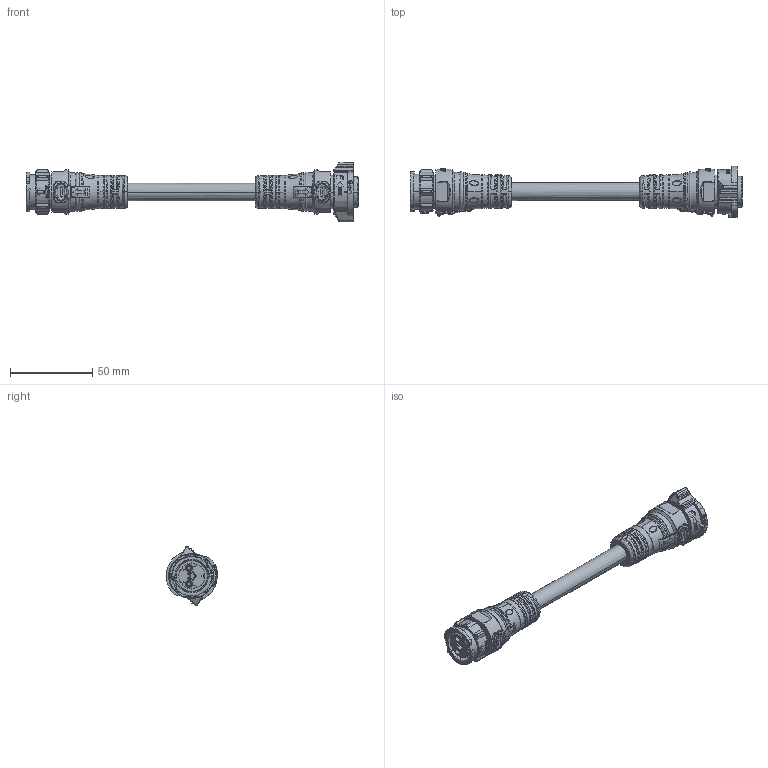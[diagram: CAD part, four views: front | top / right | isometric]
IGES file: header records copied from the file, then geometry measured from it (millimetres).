
Start section:  PTC IGES file: ab-dc02hl-dcbl-qexxx_sw0001.igs
Global section: file name: ab-dc02hl-dcbl-qexxx_sw0001.igs; native system: Creo Parametric by Parametric Technology Corporation; preprocessor: 2017170; author: L100003; organization: Unknown; date: 20211018.091752; units: millimetre
Bounding box: 201.9 x 31.26 x 36 mm (x, y, z)
Volume: 55399.2 mm3; surface area: 20416.3 mm2
Topology: 2 solids, 5 shells, 1748 faces, 4655 edges, 2985 vertices
Faces by surface type: bspline 936, revolution 522, extrusion 290
